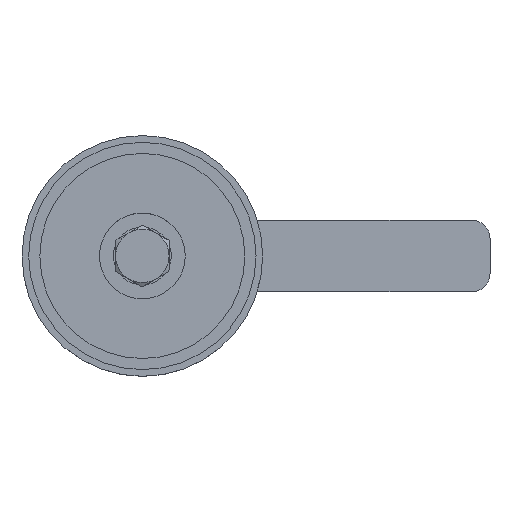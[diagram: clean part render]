
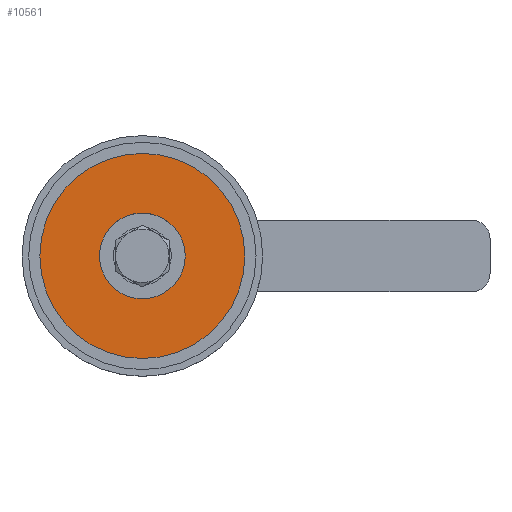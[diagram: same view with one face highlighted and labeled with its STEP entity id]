
A CAD part, top view. The second image highlights one B-rep face of the part: STEP entity #10561.
In plain terms, the highlighted planar face has unit normal (0, 0, 1).
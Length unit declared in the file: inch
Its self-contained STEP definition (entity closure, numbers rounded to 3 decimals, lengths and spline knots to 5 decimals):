
#211 = FACE_BOUND ( 'NONE', #1800, .T. ) ;
#726 = AXIS2_PLACEMENT_3D ( 'NONE', #5511, #4703, #8882 ) ;
#780 = CARTESIAN_POINT ( 'NONE',  ( -1.4375, 0., 0.74 ) ) ;
#1505 = CIRCLE ( 'NONE', #4649, 0.6015 ) ;
#1570 = DIRECTION ( 'NONE',  ( 1., 0., 0. ) ) ;
#1677 = EDGE_CURVE ( 'NONE', #3014, #3250, #2425, .T. ) ;
#1800 = EDGE_LOOP ( 'NONE', ( #2373, #9373 ) ) ;
#1828 = CARTESIAN_POINT ( 'NONE',  ( 0., 0., 0.74 ) ) ;
#1924 = VERTEX_POINT ( 'NONE', #5844 ) ;
#2243 = DIRECTION ( 'NONE',  ( 1., 0., 0. ) ) ;
#2373 = ORIENTED_EDGE ( 'NONE', *, *, #5203, .F. ) ;
#2378 = CARTESIAN_POINT ( 'NONE',  ( 0., 0., 0.74 ) ) ;
#2425 = CIRCLE ( 'NONE', #5187, 1.4375 ) ;
#3014 = VERTEX_POINT ( 'NONE', #7483 ) ;
#3250 = VERTEX_POINT ( 'NONE', #780 ) ;
#3570 = DIRECTION ( 'NONE',  ( 0., 0., 1. ) ) ;
#3867 = DIRECTION ( 'NONE',  ( 0., 0., 1. ) ) ;
#3993 = CARTESIAN_POINT ( 'NONE',  ( -0.6015, 0., 0.74 ) ) ;
#4055 = DIRECTION ( 'NONE',  ( 0., 0., 1. ) ) ;
#4423 = DIRECTION ( 'NONE',  ( 1., 0., 0. ) ) ;
#4441 = DIRECTION ( 'NONE',  ( 1., 0., 0. ) ) ;
#4649 = AXIS2_PLACEMENT_3D ( 'NONE', #8570, #3570, #4423 ) ;
#4703 = DIRECTION ( 'NONE',  ( 0., 0., 1. ) ) ;
#4928 = EDGE_CURVE ( 'NONE', #1924, #5895, #1505, .T. ) ;
#5187 = AXIS2_PLACEMENT_3D ( 'NONE', #2378, #4055, #1570 ) ;
#5203 = EDGE_CURVE ( 'NONE', #5895, #1924, #7256, .T. ) ;
#5511 = CARTESIAN_POINT ( 'NONE',  ( 0., 0., 0.74 ) ) ;
#5844 = CARTESIAN_POINT ( 'NONE',  ( 0.6015, 0., 0.74 ) ) ;
#5895 = VERTEX_POINT ( 'NONE', #3993 ) ;
#6113 = EDGE_CURVE ( 'NONE', #3250, #3014, #9478, .T. ) ;
#6323 = AXIS2_PLACEMENT_3D ( 'NONE', #8045, #3867, #2243 ) ;
#7066 = AXIS2_PLACEMENT_3D ( 'NONE', #1828, #7663, #4441 ) ;
#7256 = CIRCLE ( 'NONE', #6323, 0.6015 ) ;
#7483 = CARTESIAN_POINT ( 'NONE',  ( 1.4375, 0., 0.74 ) ) ;
#7663 = DIRECTION ( 'NONE',  ( 0., 0., 1. ) ) ;
#8045 = CARTESIAN_POINT ( 'NONE',  ( 0., 0., 0.74 ) ) ;
#8570 = CARTESIAN_POINT ( 'NONE',  ( 0., 0., 0.74 ) ) ;
#8736 = ORIENTED_EDGE ( 'NONE', *, *, #1677, .T. ) ;
#8882 = DIRECTION ( 'NONE',  ( 1., 0., 0. ) ) ;
#9053 = EDGE_LOOP ( 'NONE', ( #9660, #8736 ) ) ;
#9373 = ORIENTED_EDGE ( 'NONE', *, *, #4928, .F. ) ;
#9478 = CIRCLE ( 'NONE', #7066, 1.4375 ) ;
#9660 = ORIENTED_EDGE ( 'NONE', *, *, #6113, .T. ) ;
#9668 = PLANE ( 'NONE',  #726 ) ;
#10561 = ADVANCED_FACE ( 'NONE', ( #10753, #211 ), #9668, .T. ) ;
#10753 = FACE_OUTER_BOUND ( 'NONE', #9053, .T. ) ;
